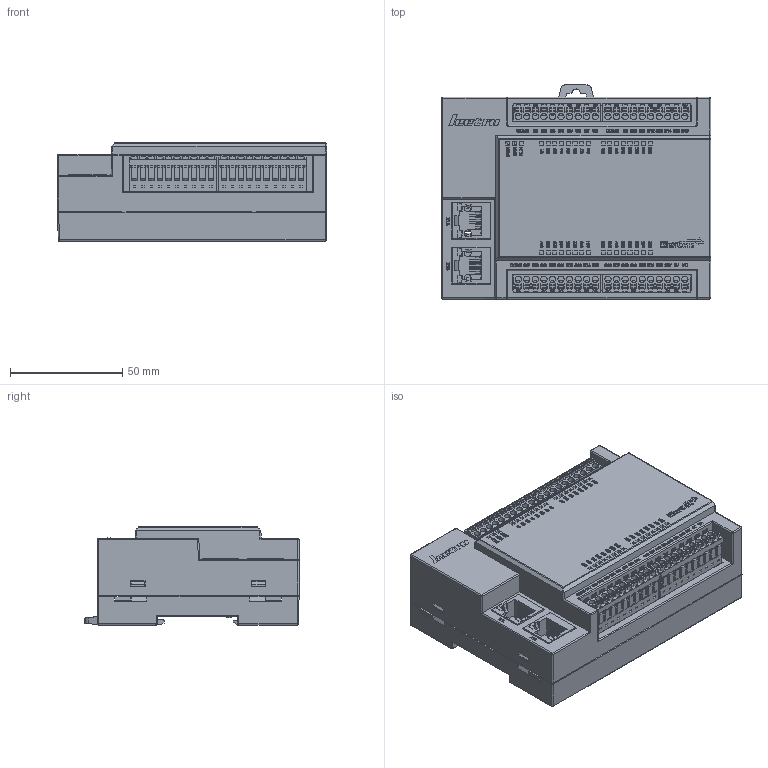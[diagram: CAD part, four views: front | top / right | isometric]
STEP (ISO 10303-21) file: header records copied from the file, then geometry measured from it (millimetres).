
FILE_DESCRIPTION (( 'STEP AP203' ), '1' );
FILE_NAME ('E28H1.STEP', '2022-12-21T07:35:57', ( 'Microsoft' ), ( 'Microsoft' ), 'SwSTEP 2.0', 'SolidWorks 2020', '' );
FILE_SCHEMA (( 'CONFIG_CONTROL_DESIGN' ));
Products named in the file (1): E28H1
Bounding box: 120.18 x 95.5 x 43.77 mm (x, y, z)
Surface area: 83742.1 mm2 (no closed solid volume)
Topology: 0 solids, 145 shells, 2890 faces, 15945 edges, 13074 vertices
Faces by surface type: plane 2215, cylinder 406, bspline 251, sphere 16, torus 2
Entity records: 202004 total; most frequent: CARTESIAN_POINT 91127, ORIENTED_EDGE 21949, DIRECTION 17132, EDGE_CURVE 15936, VERTEX_POINT 13074, VECTOR 9668, LINE 9668, B_SPLINE_CURVE_WITH_KNOTS 5133
